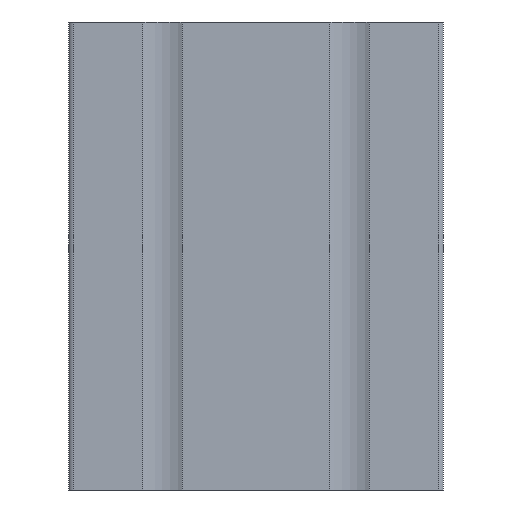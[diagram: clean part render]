
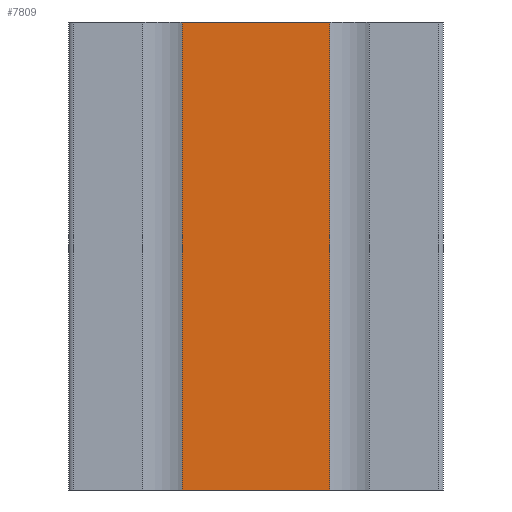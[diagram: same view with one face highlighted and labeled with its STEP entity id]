
A CAD part, front view. The second image highlights one B-rep face of the part: STEP entity #7809.
In plain terms, the highlighted planar face has unit normal (0, -1, 0).
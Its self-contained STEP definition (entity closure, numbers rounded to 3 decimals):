
#17 = ORIENTED_EDGE ( 'NONE', *, *, #577, .T. ) ;
#480 = DIRECTION ( 'NONE',  ( 0., 0., 1. ) ) ;
#577 = EDGE_CURVE ( 'NONE', #916, #1764, #7406, .T. ) ;
#892 = VERTEX_POINT ( 'NONE', #4869 ) ;
#916 = VERTEX_POINT ( 'NONE', #4145 ) ;
#968 = VECTOR ( 'NONE', #1401, 1000. ) ;
#1401 = DIRECTION ( 'NONE',  ( 0., 0., 1. ) ) ;
#1514 = EDGE_CURVE ( 'NONE', #916, #892, #6287, .T. ) ;
#1591 = DIRECTION ( 'NONE',  ( 0., 0., -1. ) ) ;
#1764 = VERTEX_POINT ( 'NONE', #7397 ) ;
#1885 = ORIENTED_EDGE ( 'NONE', *, *, #7659, .F. ) ;
#1966 = DIRECTION ( 'NONE',  ( 1., 0., 0. ) ) ;
#2074 = DIRECTION ( 'NONE',  ( 1., 0., 0. ) ) ;
#2187 = FACE_OUTER_BOUND ( 'NONE', #3044, .T. ) ;
#2449 = EDGE_CURVE ( 'NONE', #1764, #5196, #7244, .T. ) ;
#3044 = EDGE_LOOP ( 'NONE', ( #1885, #4888, #17, #8185 ) ) ;
#3644 = CARTESIAN_POINT ( 'NONE',  ( 15.8, -20., 0. ) ) ;
#4046 = VECTOR ( 'NONE', #1966, 1000. ) ;
#4145 = CARTESIAN_POINT ( 'NONE',  ( -15.8, -20., -100. ) ) ;
#4241 = DIRECTION ( 'NONE',  ( 0., -1., 0. ) ) ;
#4446 = AXIS2_PLACEMENT_3D ( 'NONE', #5563, #4241, #1591 ) ;
#4841 = PLANE ( 'NONE',  #4446 ) ;
#4869 = CARTESIAN_POINT ( 'NONE',  ( -15.8, -20., 0. ) ) ;
#4888 = ORIENTED_EDGE ( 'NONE', *, *, #1514, .F. ) ;
#5196 = VERTEX_POINT ( 'NONE', #3644 ) ;
#5215 = CARTESIAN_POINT ( 'NONE',  ( -15.8, -20., 0. ) ) ;
#5563 = CARTESIAN_POINT ( 'NONE',  ( -15.8, -20., -100. ) ) ;
#5650 = CARTESIAN_POINT ( 'NONE',  ( -15.8, -20., -100. ) ) ;
#5855 = LINE ( 'NONE', #5215, #4046 ) ;
#6287 = LINE ( 'NONE', #5650, #7781 ) ;
#7078 = VECTOR ( 'NONE', #2074, 1000. ) ;
#7244 = LINE ( 'NONE', #7920, #968 ) ;
#7397 = CARTESIAN_POINT ( 'NONE',  ( 15.8, -20., -100. ) ) ;
#7406 = LINE ( 'NONE', #8082, #7078 ) ;
#7659 = EDGE_CURVE ( 'NONE', #892, #5196, #5855, .T. ) ;
#7781 = VECTOR ( 'NONE', #480, 1000. ) ;
#7809 = ADVANCED_FACE ( 'NONE', ( #2187 ), #4841, .T. ) ;
#7920 = CARTESIAN_POINT ( 'NONE',  ( 15.8, -20., -100. ) ) ;
#8082 = CARTESIAN_POINT ( 'NONE',  ( -15.8, -20., -100. ) ) ;
#8185 = ORIENTED_EDGE ( 'NONE', *, *, #2449, .T. ) ;
